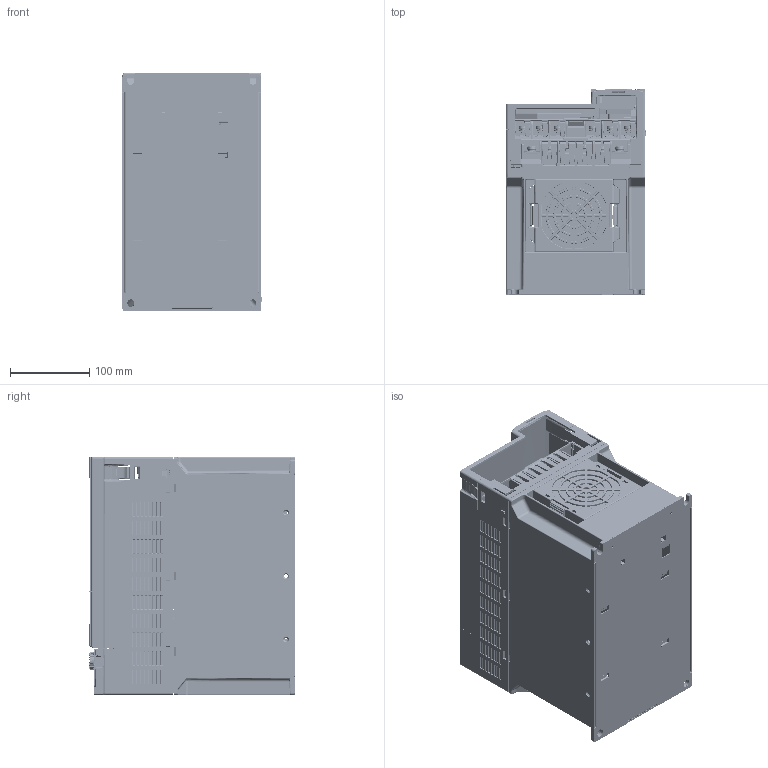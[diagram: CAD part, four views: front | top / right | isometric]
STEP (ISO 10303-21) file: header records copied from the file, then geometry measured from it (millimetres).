
FILE_DESCRIPTION((''),'2;1');
FILE_NAME('M300-F-ASSY_ASM_ASM_1_ASM_1_ASM_ASM','2023-12-28T09:50:51',('EDWARD.LIAO'),(''),'CREO PARAMETRIC BY PTC INC, 2022162','CREO PARAMETRIC BY PTC INC, 2022162','');
FILE_SCHEMA(('AUTOMOTIVE_DESIGN { 1 0 10303 214 1 1 1 1 }'));
Products named in the file (203): M300-F-ASSY_ASM_1_1_1_1_1; M300-F-ASSY_ASM_2_1_1_1_1; M300-F-ASSY_ASM_3_1_1_1_1; M300-F-ASSY_ASM_4_1_1_1_1; M300-F-ASSY_ASM_5_1_1_1_1; M300-F-ASSY_ASM_6_1_1_1_1; M300-F-ASSY_ASM_7_1_1_1_1; M300-F-ASSY_ASM_8_1_1_1_1; M300-F-ASSY_ASM_9_1_1_1_1; M300-F-ASSY_ASM_10_1_1_1_1; M300-F-ASSY_ASM_11_1_1_1_1; M300-F-ASSY_ASM_12_1_1_1_1; M300-F-ASSY_ASM_13_1_1_1_1; M300-F-ASSY_ASM_14_1_1_1_1; M300-F-ASSY_ASM_15_1_1_1_1; M300-F-ASSY_ASM_16_1_1_1_1; M300-F-ASSY_ASM_17_1_1_1_1; M300-F-ASSY_ASM_18_1_1_1_1; M300-F-ASSY_ASM_19_1_1_1_1; M300-F-ASSY_ASM_20_1_1_1_1; M300-F-ASSY_ASM_21_1_1_1_1; M300-F-ASSY_ASM_22_1_1_1_1; M300-F-ASSY_ASM_23_1_1_1_1; M300-F-ASSY_ASM_24_1_1_1_1; M300-F-ASSY_ASM_25_1_1_1_1; M300-F-ASSY_ASM_26_1_1_1_1; M300-F-ASSY_ASM_27_1_1_1_1; M300-F-ASSY_ASM_28_1_1_1_1; M300-F-ASSY_ASM_29_1_1_1_1; M300-F-ASSY_ASM_30_1_1_1_1; M300-F-ASSY_ASM_31_1_1_1_1; M300-F-ASSY_ASM_32_1_1_1_1; M300-F-ASSY_ASM_33_1_1_1_1; M300-F-ASSY_ASM_34_1_1_1_1; M300-F-ASSY_ASM_35_1_1_1_1; M300-F-ASSY_ASM_36_1_1_1_1; M300-F-ASSY_ASM_37_1_1_1_1; M300-F-ASSY_ASM_38_1_1_1_1; M300-F-ASSY_ASM_39_1_1_1_1; M300-F-ASSY_ASM_40_1_1_1_1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
Assembly tree (203 placements, depth 2):
  M300-F-ASSY_ASM_ASM_1_ASM_1_ASM_ASM
    M300-F-ASSY_ASM_1_1_1_1_1
    M300-F-ASSY_ASM_2_1_1_1_1
    M300-F-ASSY_ASM_3_1_1_1_1
    M300-F-ASSY_ASM_4_1_1_1_1
    M300-F-ASSY_ASM_5_1_1_1_1
    M300-F-ASSY_ASM_6_1_1_1_1
    M300-F-ASSY_ASM_7_1_1_1_1
    M300-F-ASSY_ASM_8_1_1_1_1
    M300-F-ASSY_ASM_9_1_1_1_1
    M300-F-ASSY_ASM_10_1_1_1_1
    M300-F-ASSY_ASM_11_1_1_1_1
    M300-F-ASSY_ASM_12_1_1_1_1
    M300-F-ASSY_ASM_13_1_1_1_1
    M300-F-ASSY_ASM_14_1_1_1_1
    M300-F-ASSY_ASM_15_1_1_1_1
    M300-F-ASSY_ASM_16_1_1_1_1
    M300-F-ASSY_ASM_17_1_1_1_1
    M300-F-ASSY_ASM_18_1_1_1_1
    M300-F-ASSY_ASM_19_1_1_1_1
    M300-F-ASSY_ASM_20_1_1_1_1
    M300-F-ASSY_ASM_21_1_1_1_1
    M300-F-ASSY_ASM_22_1_1_1_1
    M300-F-ASSY_ASM_23_1_1_1_1
    M300-F-ASSY_ASM_24_1_1_1_1
    M300-F-ASSY_ASM_25_1_1_1_1
    M300-F-ASSY_ASM_26_1_1_1_1
    M300-F-ASSY_ASM_27_1_1_1_1
    M300-F-ASSY_ASM_28_1_1_1_1
    M300-F-ASSY_ASM_29_1_1_1_1
    M300-F-ASSY_ASM_30_1_1_1_1
    M300-F-ASSY_ASM_31_1_1_1_1
    M300-F-ASSY_ASM_32_1_1_1_1
    M300-F-ASSY_ASM_33_1_1_1_1
    M300-F-ASSY_ASM_34_1_1_1_1
    M300-F-ASSY_ASM_35_1_1_1_1
    M300-F-ASSY_ASM_36_1_1_1_1
    M300-F-ASSY_ASM_37_1_1_1_1
    M300-F-ASSY_ASM_38_1_1_1_1
    M300-F-ASSY_ASM_39_1_1_1_1
    M300-F-ASSY_ASM_40_1_1_1_1
    M300-F-ASSY_ASM_41_1_1_1_1
    M300-F-ASSY_ASM_42_1_1_1_1
    M300-F-ASSY_ASM_43_1_1_1_1
    M300-F-ASSY_ASM_44_1_1_1_1
    M300-F-ASSY_ASM_45_1_1_1_1
    M300-F-ASSY_ASM_46_1_1_1_1
    M300-F-ASSY_ASM_47_1_1_1_1
    M300-F-ASSY_ASM_48_1_1_1_1
    M300-F-ASSY_ASM_49_1_1_1_1
    M300-F-ASSY_ASM_50_1_1_1_1
    M300-F-ASSY_ASM_51_1_1_1_1
    M300-F-ASSY_ASM_52_1_1_1_1
    M300-F-ASSY_ASM_53_1_1_1_1
    M300-F-ASSY_ASM_54_1_1_1_1
    M300-F-ASSY_ASM_55_1_1_1_1
    M300-F-ASSY_ASM_56_1_1_1_1
    M300-F-ASSY_ASM_57_1_1_1_1
    M300-F-ASSY_ASM_58_1_1_1_1
    M300-F-ASSY_ASM_59_1_1_1_1
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Bounding box: 175.3 x 258.92 x 300.3 mm (x, y, z)
Volume: 1146045.3 mm3; surface area: 1032926.8 mm2
Topology: 199 solids, 213 shells, 30401 faces, 82614 edges, 52411 vertices
Faces by surface type: plane 16784, cylinder 8269, bspline 2406, cone 1273, torus 815, extrusion 520, sphere 236, revolution 98
Entity records: 1341725 total; most frequent: CARTESIAN_POINT 396837, ORIENTED_EDGE 163482, DIRECTION 142690, EDGE_CURVE 82020, VECTOR 53873, LINE 53353, VERTEX_POINT 52223, AXIS2_PLACEMENT_3D 44059
